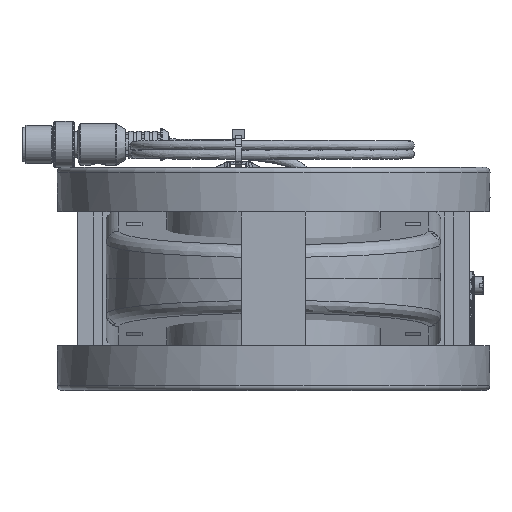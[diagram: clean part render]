
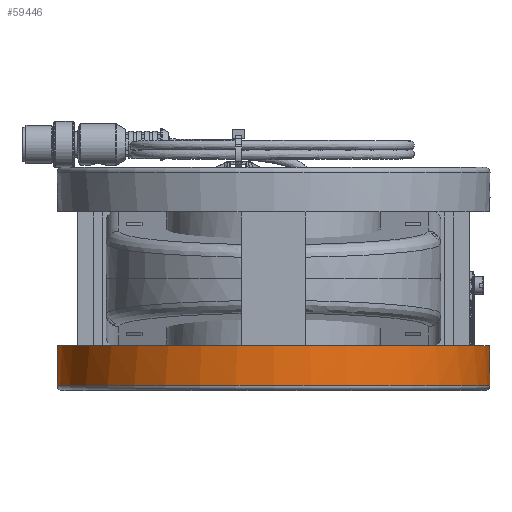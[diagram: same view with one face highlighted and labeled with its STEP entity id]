
A CAD part, front view. The second image highlights one B-rep face of the part: STEP entity #59446.
In plain terms, the highlighted cylindrical face has radius 67.9 mm (diameter 135.8 mm), a full revolution.
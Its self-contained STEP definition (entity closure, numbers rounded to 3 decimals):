
#38131=CYLINDRICAL_SURFACE('',#140376,67.9);
#39846=CIRCLE('',#140364,67.9);
#39853=CIRCLE('',#140374,67.9);
#43874=ELLIPSE('',#140375,68.159,67.9);
#58576=FACE_BOUND('',#73629,.T.);
#58577=FACE_BOUND('',#73630,.T.);
#59446=ADVANCED_FACE('',(#58576,#58577),#38131,.T.);
#73629=EDGE_LOOP('',(#80802));
#73630=EDGE_LOOP('',(#80803,#80804));
#80802=ORIENTED_EDGE('',*,*,#120919,.T.);
#80803=ORIENTED_EDGE('',*,*,#120907,.F.);
#80804=ORIENTED_EDGE('',*,*,#120920,.T.);
#111103=VERTEX_POINT('',#176265);
#111104=VERTEX_POINT('',#176266);
#111116=VERTEX_POINT('',#176354);
#120907=EDGE_CURVE('',#111103,#111104,#39846,.T.);
#120919=EDGE_CURVE('',#111116,#111116,#39853,.T.);
#120920=EDGE_CURVE('',#111103,#111104,#43874,.T.);
#140364=AXIS2_PLACEMENT_3D('',#176267,#149838,#149839);
#140374=AXIS2_PLACEMENT_3D('',#176353,#149858,#149859);
#140375=AXIS2_PLACEMENT_3D('',#176355,#149860,#149861);
#140376=AXIS2_PLACEMENT_3D('',#176356,#149862,#149863);
#149838=DIRECTION('',(1.,0.,0.));
#149839=DIRECTION('',(0.,1.,0.));
#149858=DIRECTION('',(1.,0.,0.));
#149859=DIRECTION('',(0.,1.,0.));
#149860=DIRECTION('',(-0.996,-0.087,0.));
#149861=DIRECTION('',(0.087,-0.996,0.));
#149862=DIRECTION('',(1.,0.,0.));
#149863=DIRECTION('',(0.,1.,0.));
#176265=CARTESIAN_POINT('',(14.,61.784,28.163));
#176266=CARTESIAN_POINT('',(14.,61.784,-28.163));
#176267=CARTESIAN_POINT('',(14.,0.,0.));
#176353=CARTESIAN_POINT('',(1.5,0.,0.));
#176354=CARTESIAN_POINT('',(1.5,67.9,0.));
#176355=CARTESIAN_POINT('',(19.405,0.,0.));
#176356=CARTESIAN_POINT('',(21.4,0.,0.));
